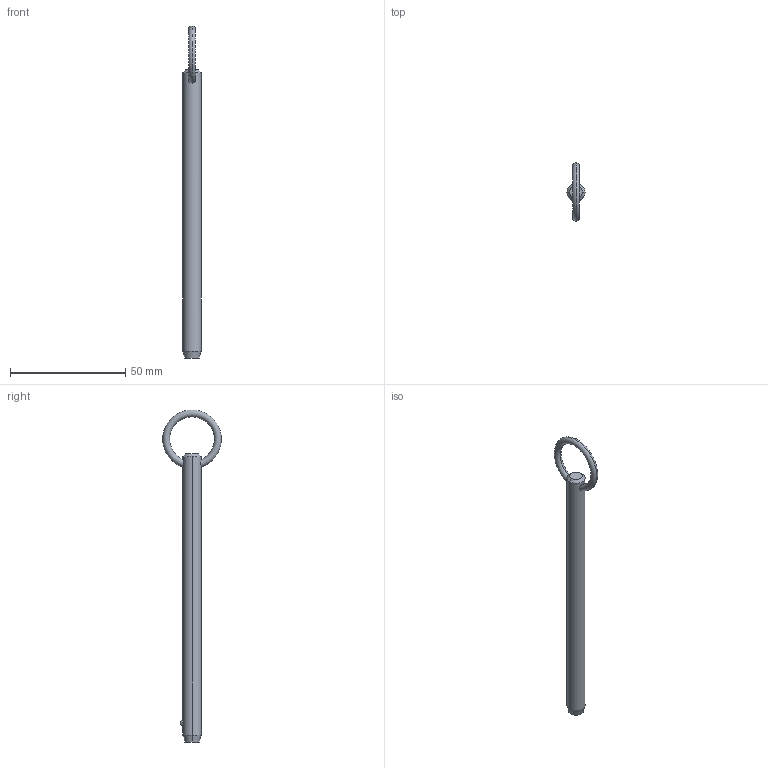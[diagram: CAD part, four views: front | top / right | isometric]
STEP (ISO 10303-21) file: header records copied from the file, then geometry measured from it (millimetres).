
FILE_DESCRIPTION (( 'STEP AP203' ), '1' );
FILE_NAME ('P1250.031-430.step', '2019-07-29T19:56:02', ( '' ), ( '' ), 'SwSTEP 2.0', 'SolidWorks 2017', '' );
FILE_SCHEMA (( 'CONFIG_CONTROL_DESIGN' ));
Length unit declared in the file: millimetre
Products named in the file (1): P1250.031-430
Bounding box: 7.93 x 25.36 x 144.11 mm (x, y, z)
Volume: 6577.7 mm3; surface area: 3751.2 mm2
Topology: 1 solids, 1 shells, 12 faces, 28 edges, 17 vertices
Faces by surface type: cone 4, torus 2, sphere 2, cylinder 2, plane 2
Entity records: 509 total; most frequent: CARTESIAN_POINT 176, DIRECTION 56, ORIENTED_EDGE 48, AXIS2_PLACEMENT_3D 25, EDGE_CURVE 24, VERTEX_POINT 15, EDGE_LOOP 15, ADVANCED_FACE 12
